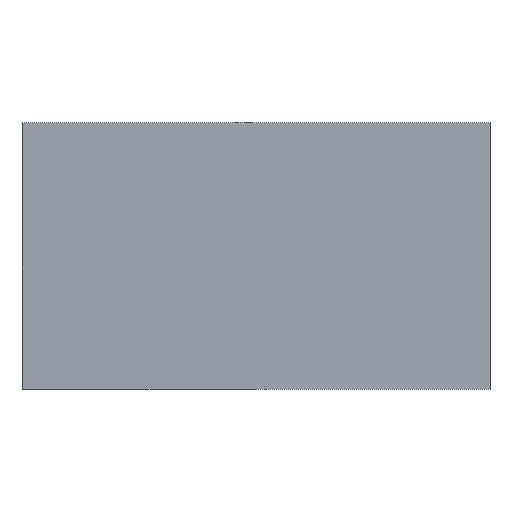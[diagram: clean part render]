
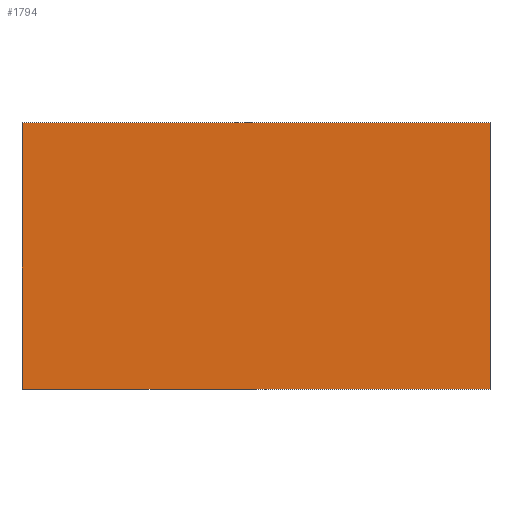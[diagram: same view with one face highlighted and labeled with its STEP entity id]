
A CAD part, top view. The second image highlights one B-rep face of the part: STEP entity #1794.
In plain terms, the highlighted planar face has unit normal (0, 0, 1).
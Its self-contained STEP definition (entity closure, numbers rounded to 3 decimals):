
#11 = LINE ( 'NONE', #342, #599 ) ;
#12 = VERTEX_POINT ( 'NONE', #703 ) ;
#54 = EDGE_LOOP ( 'NONE', ( #318, #1799, #2416, #1950 ) ) ;
#86 = VERTEX_POINT ( 'NONE', #436 ) ;
#91 = CARTESIAN_POINT ( 'NONE',  ( 0., 0., 18. ) ) ;
#112 = DIRECTION ( 'NONE',  ( 0., 1., 0. ) ) ;
#135 = VERTEX_POINT ( 'NONE', #233 ) ;
#233 = CARTESIAN_POINT ( 'NONE',  ( 948., 539., 18. ) ) ;
#318 = ORIENTED_EDGE ( 'NONE', *, *, #2413, .T. ) ;
#342 = CARTESIAN_POINT ( 'NONE',  ( -948., -539., 18. ) ) ;
#436 = CARTESIAN_POINT ( 'NONE',  ( -948., -539., 18. ) ) ;
#471 = EDGE_CURVE ( 'NONE', #86, #1087, #11, .T. ) ;
#526 = CARTESIAN_POINT ( 'NONE',  ( -948., 539., 18. ) ) ;
#566 = VECTOR ( 'NONE', #1803, 1000. ) ;
#599 = VECTOR ( 'NONE', #763, 1000. ) ;
#649 = EDGE_CURVE ( 'NONE', #135, #12, #2389, .T. ) ;
#703 = CARTESIAN_POINT ( 'NONE',  ( -948., 539., 18. ) ) ;
#763 = DIRECTION ( 'NONE',  ( 1., 0., 0. ) ) ;
#841 = CARTESIAN_POINT ( 'NONE',  ( 948., -539., 18. ) ) ;
#843 = DIRECTION ( 'NONE',  ( 1., 0., 0. ) ) ;
#1030 = CARTESIAN_POINT ( 'NONE',  ( -948., 539., 18. ) ) ;
#1084 = PLANE ( 'NONE',  #2134 ) ;
#1087 = VERTEX_POINT ( 'NONE', #841 ) ;
#1220 = CARTESIAN_POINT ( 'NONE',  ( 948., 539., 18. ) ) ;
#1346 = VECTOR ( 'NONE', #112, 1000. ) ;
#1472 = FACE_OUTER_BOUND ( 'NONE', #54, .T. ) ;
#1669 = DIRECTION ( 'NONE',  ( 0., -1., 0. ) ) ;
#1794 = ADVANCED_FACE ( 'NONE', ( #1472 ), #1084, .T. ) ;
#1799 = ORIENTED_EDGE ( 'NONE', *, *, #471, .T. ) ;
#1803 = DIRECTION ( 'NONE',  ( -1., 0., 0. ) ) ;
#1823 = LINE ( 'NONE', #1220, #1346 ) ;
#1950 = ORIENTED_EDGE ( 'NONE', *, *, #649, .T. ) ;
#2008 = DIRECTION ( 'NONE',  ( 0., 0., 1. ) ) ;
#2134 = AXIS2_PLACEMENT_3D ( 'NONE', #91, #2008, #843 ) ;
#2156 = EDGE_CURVE ( 'NONE', #1087, #135, #1823, .T. ) ;
#2283 = LINE ( 'NONE', #526, #2455 ) ;
#2389 = LINE ( 'NONE', #1030, #566 ) ;
#2413 = EDGE_CURVE ( 'NONE', #12, #86, #2283, .T. ) ;
#2416 = ORIENTED_EDGE ( 'NONE', *, *, #2156, .T. ) ;
#2455 = VECTOR ( 'NONE', #1669, 1000. ) ;
